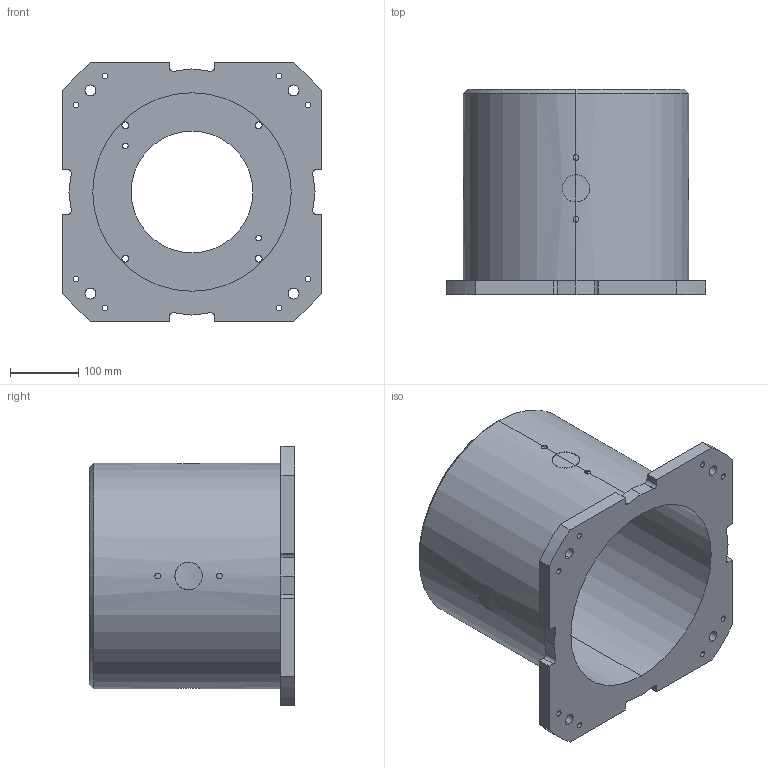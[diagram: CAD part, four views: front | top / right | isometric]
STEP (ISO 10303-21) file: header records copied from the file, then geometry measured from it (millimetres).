
FILE_DESCRIPTION (( 'STEP AP214' ), '1' );
FILE_NAME ('E-300.STEP', '2024-01-19T08:41:23', ( '' ), ( '' ), 'SwSTEP 2.0', 'SolidWorks 2022', '' );
FILE_SCHEMA (( 'AUTOMOTIVE_DESIGN' ));
Length unit declared in the file: millimetre
Products named in the file (1): E-300
Bounding box: 380 x 300 x 380 mm (x, y, z)
Volume: 7574177.2 mm3; surface area: 818601.3 mm2
Topology: 1 solids, 1 shells, 131 faces, 361 edges, 240 vertices
Faces by surface type: cylinder 93, plane 28, bspline 8, cone 2
Entity records: 7560 total; most frequent: CARTESIAN_POINT 3677, ORIENTED_EDGE 722, DIRECTION 661, EDGE_CURVE 361, AXIS2_PLACEMENT_3D 250, VERTEX_POINT 240, EDGE_LOOP 177, LINE 161
